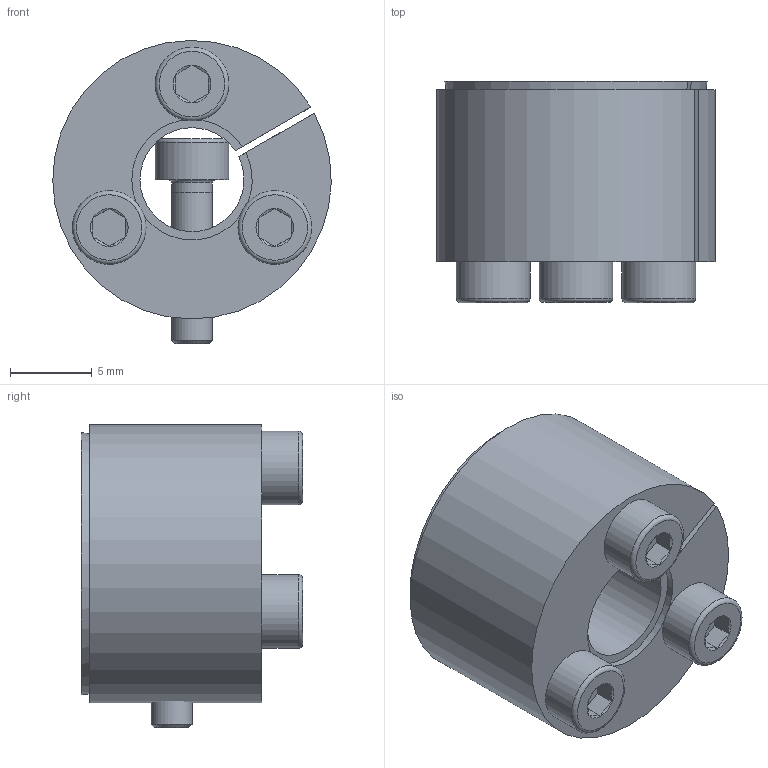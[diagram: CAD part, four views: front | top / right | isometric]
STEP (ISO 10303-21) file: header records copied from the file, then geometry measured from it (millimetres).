
FILE_DESCRIPTION( ( 'Unknown' ), '1' );
FILE_NAME( 'C:/Dokumente und Einstellungen/Sven/Desktop/homepage/cad - homepage/KBS61/KBS 61 - 7 x 17.stp', 'Unknown', ( 'Unknown' ), ( 'Unknown' ), 'XStep 1.0', 'Unknown', ' ' );
FILE_SCHEMA( ( 'automotive_design' ) );
Length unit declared in the file: millimetre
Products named in the file (5): Assem1; KBS 61 - 7 x 17; ISO EN DIN 4762 M2,5x10; ISO EN DIN 4762 M2,5x10-oa0; ISO EN DIN 4762 M2,5x10-oa1
Bounding box: 17 x 13.5 x 18.5 mm (x, y, z)
Surface area: 3991.2 mm2
Topology: 8 solids, 8 shells, 176 faces, 330 edges, 194 vertices
Faces by surface type: plane 84, cone 46, cylinder 34, torus 12
Full cylindrical faces by diameter (mm): 2.1 x6, 2.5 x18, 4.5 x6
Entity records: 2356 total; most frequent: CARTESIAN_POINT 433, DIRECTION 364, ORIENTED_EDGE 270, AXIS2_PLACEMENT_3D 158, EDGE_CURVE 135, EDGE_LOOP 130, FACE_OUTER_BOUND 109, VERTEX_POINT 91
